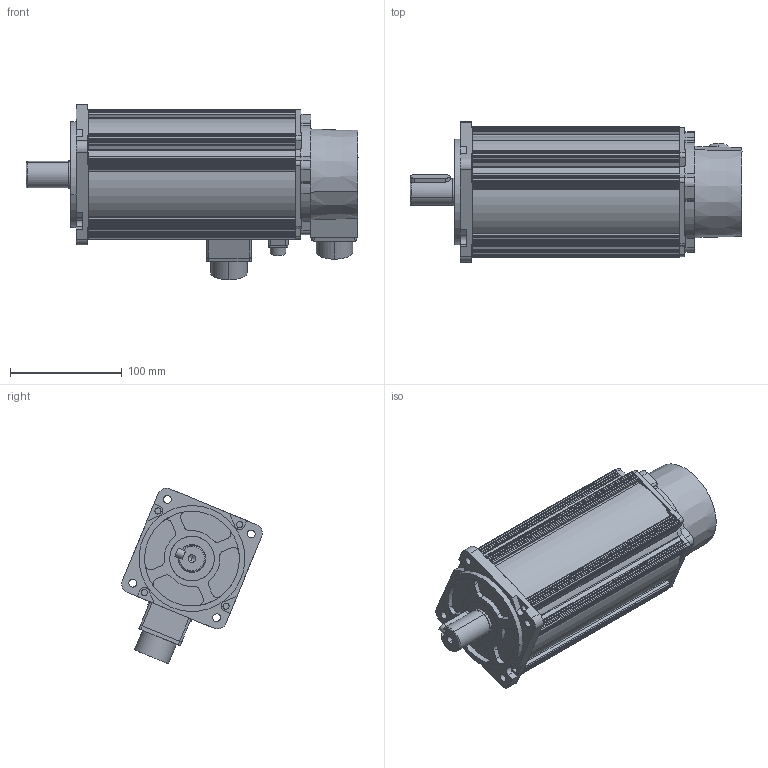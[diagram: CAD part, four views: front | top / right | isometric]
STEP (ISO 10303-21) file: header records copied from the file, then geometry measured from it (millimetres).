
FILE_DESCRIPTION (( 'STEP AP203' ), '1' );
FILE_NAME ('AS2MJ-10-2030C-D342.STEP', '2024-07-09T03:22:30', ( 'Admin' ), ( '' ), 'SwSTEP 2.0', 'SolidWorks 2018', '' );
FILE_SCHEMA (( 'CONFIG_CONTROL_DESIGN' ));
Length unit declared in the file: millimetre
Products named in the file (1): AS2MJ-10-2030C-D342
Bounding box: 297.7 x 126.22 x 157.45 mm (x, y, z)
Volume: 588562.4 mm3; surface area: 288285.2 mm2
Topology: 12 solids, 12 shells, 799 faces, 2233 edges, 1429 vertices
Faces by surface type: plane 382, cylinder 358, bspline 38, cone 21
Entity records: 26517 total; most frequent: CARTESIAN_POINT 5622, DIRECTION 4401, ORIENTED_EDGE 4318, EDGE_CURVE 2159, AXIS2_PLACEMENT_3D 1508, VERTEX_POINT 1429, LINE 1385, VECTOR 1385
